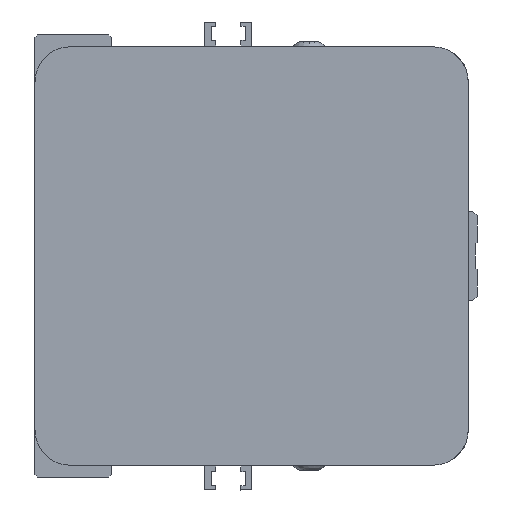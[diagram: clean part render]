
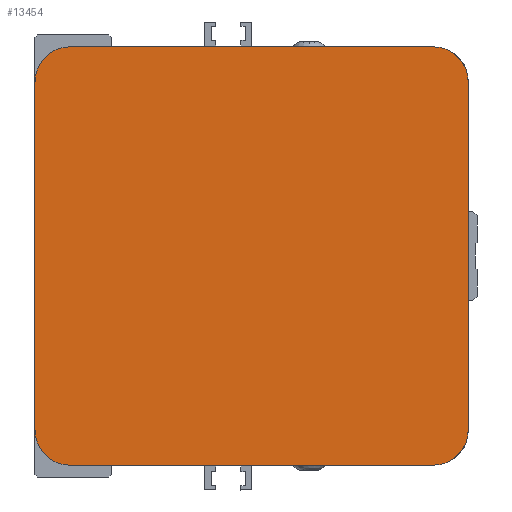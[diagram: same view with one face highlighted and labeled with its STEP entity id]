
A CAD part, left-side view. The second image highlights one B-rep face of the part: STEP entity #13454.
In plain terms, the highlighted planar face has unit normal (-1, 0, 0) as drawn and (0, 0, -1) by its records, which use the part's own axes.
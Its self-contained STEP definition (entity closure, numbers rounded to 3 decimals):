
#964=CIRCLE('',#14397,6.);
#965=CIRCLE('',#14402,6.);
#973=CIRCLE('',#14413,6.);
#974=CIRCLE('',#14415,6.);
#1626=FACE_OUTER_BOUND('',#2439,.T.);
#2439=EDGE_LOOP('',(#9366,#9367,#9368,#9369,#9370,#9371,#9372,#9373));
#3517=LINE('',#18815,#4769);
#3522=LINE('',#18826,#4774);
#3529=LINE('',#18841,#4781);
#3533=LINE('',#18926,#4785);
#4769=VECTOR('',#15567,61.5);
#4774=VECTOR('',#15578,59.);
#4781=VECTOR('',#15595,61.5);
#4785=VECTOR('',#15621,59.);
#6015=VERTEX_POINT('',#18811);
#6017=VERTEX_POINT('',#18814);
#6018=VERTEX_POINT('',#18819);
#6020=VERTEX_POINT('',#18825);
#6022=VERTEX_POINT('',#18836);
#6023=VERTEX_POINT('',#18840);
#6032=VERTEX_POINT('',#18921);
#6033=VERTEX_POINT('',#18925);
#7367=EDGE_CURVE('',#6017,#6015,#3517,.T.);
#7370=EDGE_CURVE('',#6017,#6018,#964,.T.);
#7373=EDGE_CURVE('',#6020,#6018,#3522,.T.);
#7379=EDGE_CURVE('',#6020,#6022,#965,.T.);
#7381=EDGE_CURVE('',#6023,#6022,#3529,.T.);
#7394=EDGE_CURVE('',#6032,#6015,#973,.T.);
#7395=EDGE_CURVE('',#6032,#6033,#3533,.T.);
#7396=EDGE_CURVE('',#6023,#6033,#974,.T.);
#9366=ORIENTED_EDGE('',*,*,#7379,.F.);
#9367=ORIENTED_EDGE('',*,*,#7373,.T.);
#9368=ORIENTED_EDGE('',*,*,#7370,.F.);
#9369=ORIENTED_EDGE('',*,*,#7367,.T.);
#9370=ORIENTED_EDGE('',*,*,#7394,.F.);
#9371=ORIENTED_EDGE('',*,*,#7395,.T.);
#9372=ORIENTED_EDGE('',*,*,#7396,.F.);
#9373=ORIENTED_EDGE('',*,*,#7381,.T.);
#12952=PLANE('',#14414);
#13454=ADVANCED_FACE('',(#1626),#12952,.F.);
#14397=AXIS2_PLACEMENT_3D('',#18820,#15572,#15573);
#14402=AXIS2_PLACEMENT_3D('',#18837,#15590,#15591);
#14413=AXIS2_PLACEMENT_3D('',#18923,#15617,#15618);
#14414=AXIS2_PLACEMENT_3D('',#18924,#15619,#15620);
#14415=AXIS2_PLACEMENT_3D('',#18927,#15622,#15623);
#15567=DIRECTION('',(0.,-1.,0.));
#15572=DIRECTION('center_axis',(0.,0.,
1.));
#15573=DIRECTION('ref_axis',(0.707,0.707,0.));
#15578=DIRECTION('',(1.,0.,0.));
#15590=DIRECTION('center_axis',(0.,0.,
1.));
#15591=DIRECTION('ref_axis',(-0.707,0.707,0.));
#15595=DIRECTION('',(0.,1.,0.));
#15617=DIRECTION('center_axis',(0.,0.,
1.));
#15618=DIRECTION('ref_axis',(0.707,-0.707,0.));
#15619=DIRECTION('center_axis',(0.,0.,
1.));
#15620=DIRECTION('ref_axis',(1.,0.,0.));
#15621=DIRECTION('',(-1.,0.,0.));
#15622=DIRECTION('center_axis',(0.,0.,
1.));
#15623=DIRECTION('ref_axis',(-0.707,-0.707,0.));
#18811=CARTESIAN_POINT('',(75.2,7.5,-307.));
#18814=CARTESIAN_POINT('',(75.2,69.,-307.));
#18815=CARTESIAN_POINT('',(75.2,69.,-307.));
#18819=CARTESIAN_POINT('',(69.2,75.,-307.));
#18820=CARTESIAN_POINT('Origin',(69.2,69.,-307.));
#18825=CARTESIAN_POINT('',(10.2,75.,-307.));
#18826=CARTESIAN_POINT('',(10.2,75.,-307.));
#18836=CARTESIAN_POINT('',(4.2,69.,-307.));
#18837=CARTESIAN_POINT('Origin',(10.2,69.,-307.));
#18840=CARTESIAN_POINT('',(4.2,7.5,-307.));
#18841=CARTESIAN_POINT('',(4.2,7.5,-307.));
#18921=CARTESIAN_POINT('',(69.2,1.5,-307.));
#18923=CARTESIAN_POINT('Origin',(69.2,7.5,-307.));
#18924=CARTESIAN_POINT('Origin',(39.7,38.25,-307.));
#18925=CARTESIAN_POINT('',(10.2,1.5,-307.));
#18926=CARTESIAN_POINT('',(69.2,1.5,-307.));
#18927=CARTESIAN_POINT('Origin',(10.2,7.5,-307.));
